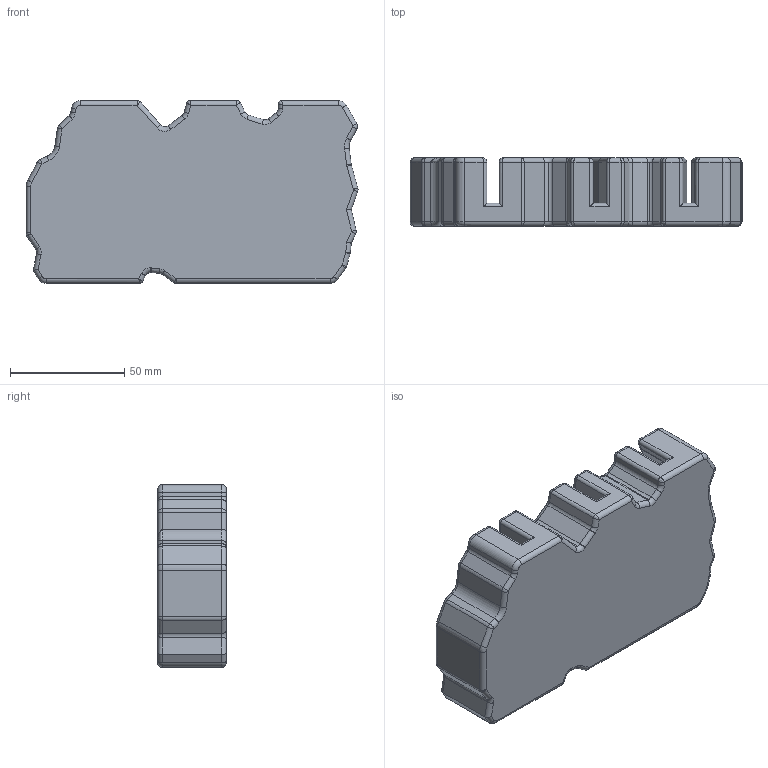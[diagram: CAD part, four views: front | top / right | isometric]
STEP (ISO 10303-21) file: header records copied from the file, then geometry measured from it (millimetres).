
FILE_DESCRIPTION (( 'STEP AP203' ), '1' );
FILE_NAME ('BASE STANDARD.STEP', '2024-09-13T15:48:21', ( '' ), ( '' ), 'SwSTEP 2.0', 'SolidWorks 2022', '' );
FILE_SCHEMA (( 'CONFIG_CONTROL_DESIGN' ));
Length unit declared in the file: millimetre
Products named in the file (1): BASE STANDARD
Bounding box: 145.34 x 30 x 80 mm (x, y, z)
Volume: 233448.9 mm3; surface area: 42605.1 mm2
Topology: 1 solids, 1 shells, 397 faces, 961 edges, 532 vertices
Faces by surface type: cylinder 198, plane 92, torus 69, bspline 37, sphere 1
Entity records: 12362 total; most frequent: CARTESIAN_POINT 3579, DIRECTION 1863, ORIENTED_EDGE 1854, EDGE_CURVE 927, AXIS2_PLACEMENT_3D 700, VERTEX_POINT 532, LINE 463, VECTOR 463
